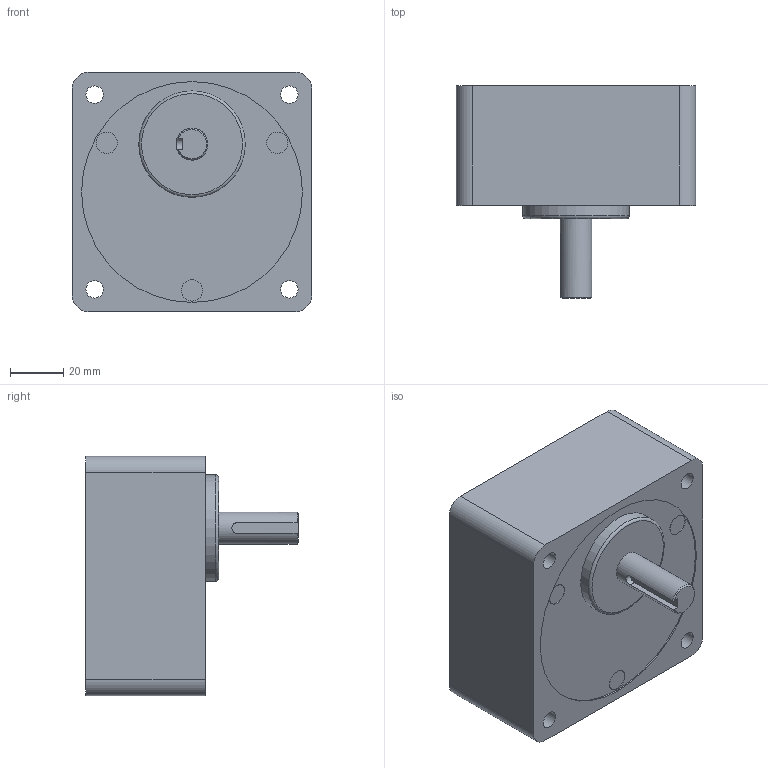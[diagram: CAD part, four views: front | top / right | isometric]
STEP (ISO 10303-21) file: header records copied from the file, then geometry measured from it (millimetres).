
FILE_DESCRIPTION((''),'2;1');
FILE_NAME('\\Servert1600\threepeace\2015homepage\STP\HP-Data_Gearhead_3D_STEP\EB-2.stp','2016-11-18T10:36:40',('Administrator'),(''),'Autodesk Inventor 2010','Autodesk Inventor 2010','');
FILE_SCHEMA(('AUTOMOTIVE_DESIGN { 1 0 10303 214 1 1 1 1 }'));
Length unit declared in the file: millimetre
Products named in the file (1): EB-2-ギアヘッド単品
Bounding box: 90 x 80 x 90 mm (x, y, z)
Volume: 347582.8 mm3; surface area: 40521.8 mm2
Topology: 2 solids, 2 shells, 35 faces, 75 edges, 50 vertices
Faces by surface type: plane 17, cylinder 12, bspline 4, torus 1, cone 1
Full cylindrical faces by diameter (mm): 8 x3, 12 x1, 40 x1, 83 x2
Entity records: 1003 total; most frequent: CARTESIAN_POINT 237, DIRECTION 155, ORIENTED_EDGE 124, AXIS2_PLACEMENT_3D 65, EDGE_CURVE 62, EDGE_LOOP 61, VERTEX_POINT 49, FACE_OUTER_BOUND 35
